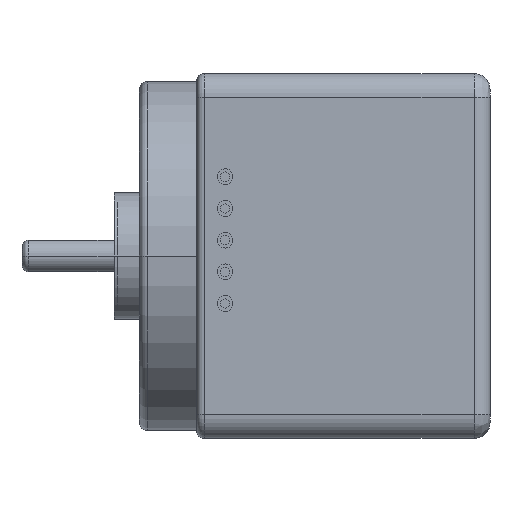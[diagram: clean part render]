
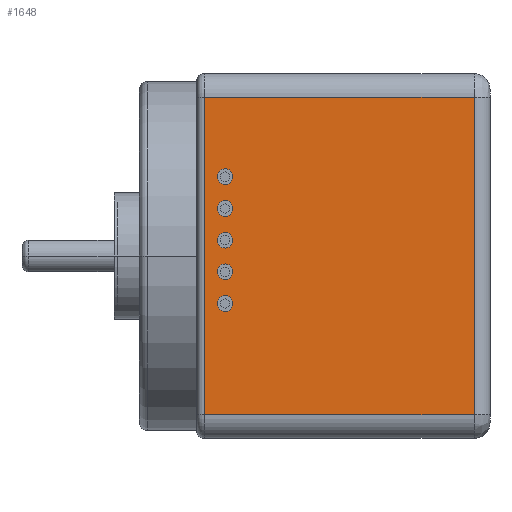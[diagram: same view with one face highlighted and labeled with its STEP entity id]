
A CAD part, front view. The second image highlights one B-rep face of the part: STEP entity #1648.
In plain terms, the highlighted planar face has unit normal (0, -1, 0).
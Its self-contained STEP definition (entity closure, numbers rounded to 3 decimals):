
#213=DIRECTION('',(-1.,0.,0.));
#214=VECTOR('',#213,17.);
#215=CARTESIAN_POINT('',(17.5,-14.,10.));
#216=LINE('',#215,#214);
#232=DIRECTION('',(0.,0.,1.));
#233=VECTOR('',#232,20.);
#234=CARTESIAN_POINT('',(17.5,-14.,-10.));
#235=LINE('',#234,#233);
#340=DIRECTION('',(0.,0.,-1.));
#341=VECTOR('',#340,20.);
#342=CARTESIAN_POINT('',(0.5,-14.,10.));
#343=LINE('',#342,#341);
#349=DIRECTION('',(-1.,0.,0.));
#350=VECTOR('',#349,17.);
#351=CARTESIAN_POINT('',(17.5,-14.,-10.));
#352=LINE('',#351,#350);
#353=CARTESIAN_POINT('',(1.8,-14.,5.));
#354=DIRECTION('',(0.,-1.,0.));
#355=DIRECTION('',(0.,0.,-1.));
#356=AXIS2_PLACEMENT_3D('',#353,#354,#355);
#358=CARTESIAN_POINT('',(1.8,-14.,5.));
#359=DIRECTION('',(0.,-1.,0.));
#360=DIRECTION('',(0.,0.,1.));
#361=AXIS2_PLACEMENT_3D('',#358,#359,#360);
#363=CARTESIAN_POINT('',(1.8,-14.,3.));
#364=DIRECTION('',(0.,-1.,0.));
#365=DIRECTION('',(0.,0.,-1.));
#366=AXIS2_PLACEMENT_3D('',#363,#364,#365);
#368=CARTESIAN_POINT('',(1.8,-14.,3.));
#369=DIRECTION('',(0.,-1.,0.));
#370=DIRECTION('',(0.,0.,1.));
#371=AXIS2_PLACEMENT_3D('',#368,#369,#370);
#373=CARTESIAN_POINT('',(1.8,-14.,1.));
#374=DIRECTION('',(0.,-1.,0.));
#375=DIRECTION('',(0.,0.,-1.));
#376=AXIS2_PLACEMENT_3D('',#373,#374,#375);
#378=CARTESIAN_POINT('',(1.8,-14.,1.));
#379=DIRECTION('',(0.,-1.,0.));
#380=DIRECTION('',(0.,0.,1.));
#381=AXIS2_PLACEMENT_3D('',#378,#379,#380);
#383=CARTESIAN_POINT('',(1.8,-14.,-1.));
#384=DIRECTION('',(0.,-1.,0.));
#385=DIRECTION('',(0.,0.,-1.));
#386=AXIS2_PLACEMENT_3D('',#383,#384,#385);
#388=CARTESIAN_POINT('',(1.8,-14.,-1.));
#389=DIRECTION('',(0.,-1.,0.));
#390=DIRECTION('',(0.,0.,1.));
#391=AXIS2_PLACEMENT_3D('',#388,#389,#390);
#393=CARTESIAN_POINT('',(1.8,-14.,-3.));
#394=DIRECTION('',(0.,-1.,0.));
#395=DIRECTION('',(0.,0.,-1.));
#396=AXIS2_PLACEMENT_3D('',#393,#394,#395);
#398=CARTESIAN_POINT('',(1.8,-14.,-3.));
#399=DIRECTION('',(0.,-1.,0.));
#400=DIRECTION('',(0.,0.,1.));
#401=AXIS2_PLACEMENT_3D('',#398,#399,#400);
#961=CARTESIAN_POINT('',(0.5,-14.,-10.));
#962=VERTEX_POINT('',#961);
#963=CARTESIAN_POINT('',(0.5,-14.,10.));
#964=VERTEX_POINT('',#963);
#965=CARTESIAN_POINT('',(17.5,-14.,10.));
#966=VERTEX_POINT('',#965);
#967=CARTESIAN_POINT('',(17.5,-14.,-10.));
#968=VERTEX_POINT('',#967);
#969=CARTESIAN_POINT('',(1.8,-14.,4.5));
#970=CARTESIAN_POINT('',(1.8,-14.,5.5));
#971=VERTEX_POINT('',#969);
#972=VERTEX_POINT('',#970);
#973=CARTESIAN_POINT('',(1.8,-14.,2.5));
#974=CARTESIAN_POINT('',(1.8,-14.,3.5));
#975=VERTEX_POINT('',#973);
#976=VERTEX_POINT('',#974);
#977=CARTESIAN_POINT('',(1.8,-14.,0.5));
#978=CARTESIAN_POINT('',(1.8,-14.,1.5));
#979=VERTEX_POINT('',#977);
#980=VERTEX_POINT('',#978);
#981=CARTESIAN_POINT('',(1.8,-14.,-1.5));
#982=CARTESIAN_POINT('',(1.8,-14.,-0.5));
#983=VERTEX_POINT('',#981);
#984=VERTEX_POINT('',#982);
#985=CARTESIAN_POINT('',(1.8,-14.,-3.5));
#986=CARTESIAN_POINT('',(1.8,-14.,-2.5));
#987=VERTEX_POINT('',#985);
#988=VERTEX_POINT('',#986);
#1607=CARTESIAN_POINT('',(9.,-14.,0.));
#1608=DIRECTION('',(0.,1.,0.));
#1609=DIRECTION('',(0.,0.,-1.));
#1610=AXIS2_PLACEMENT_3D('',#1607,#1608,#1609);
#1611=PLANE('',#1610);
#1612=ORIENTED_EDGE('',*,*,#1601,.F.);
#1613=ORIENTED_EDGE('',*,*,#1394,.F.);
#1614=ORIENTED_EDGE('',*,*,#1436,.F.);
#1615=ORIENTED_EDGE('',*,*,#1573,.T.);
#1616=EDGE_LOOP('',(#1612,#1613,#1614,#1615));
#1617=FACE_OUTER_BOUND('',#1616,.F.);
#1619=ORIENTED_EDGE('',*,*,#1618,.T.);
#1621=ORIENTED_EDGE('',*,*,#1620,.T.);
#1622=EDGE_LOOP('',(#1619,#1621));
#1623=FACE_BOUND('',#1622,.F.);
#1625=ORIENTED_EDGE('',*,*,#1624,.T.);
#1627=ORIENTED_EDGE('',*,*,#1626,.T.);
#1628=EDGE_LOOP('',(#1625,#1627));
#1629=FACE_BOUND('',#1628,.F.);
#1631=ORIENTED_EDGE('',*,*,#1630,.T.);
#1633=ORIENTED_EDGE('',*,*,#1632,.T.);
#1634=EDGE_LOOP('',(#1631,#1633));
#1635=FACE_BOUND('',#1634,.F.);
#1637=ORIENTED_EDGE('',*,*,#1636,.T.);
#1639=ORIENTED_EDGE('',*,*,#1638,.T.);
#1640=EDGE_LOOP('',(#1637,#1639));
#1641=FACE_BOUND('',#1640,.F.);
#1643=ORIENTED_EDGE('',*,*,#1642,.T.);
#1645=ORIENTED_EDGE('',*,*,#1644,.T.);
#1646=EDGE_LOOP('',(#1643,#1645));
#1647=FACE_BOUND('',#1646,.F.);
#1648=ADVANCED_FACE('',(#1617,#1623,#1629,#1635,#1641,#1647),#1611,.F.);
#357=CIRCLE('',#356,0.5);
#362=CIRCLE('',#361,0.5);
#367=CIRCLE('',#366,0.5);
#372=CIRCLE('',#371,0.5);
#377=CIRCLE('',#376,0.5);
#382=CIRCLE('',#381,0.5);
#387=CIRCLE('',#386,0.5);
#392=CIRCLE('',#391,0.5);
#397=CIRCLE('',#396,0.5);
#402=CIRCLE('',#401,0.5);
#1394=EDGE_CURVE('',#966,#964,#216,.T.);
#1436=EDGE_CURVE('',#968,#966,#235,.T.);
#1573=EDGE_CURVE('',#968,#962,#352,.T.);
#1601=EDGE_CURVE('',#964,#962,#343,.T.);
#1618=EDGE_CURVE('',#971,#972,#357,.T.);
#1620=EDGE_CURVE('',#972,#971,#362,.T.);
#1624=EDGE_CURVE('',#975,#976,#367,.T.);
#1626=EDGE_CURVE('',#976,#975,#372,.T.);
#1630=EDGE_CURVE('',#979,#980,#377,.T.);
#1632=EDGE_CURVE('',#980,#979,#382,.T.);
#1636=EDGE_CURVE('',#983,#984,#387,.T.);
#1638=EDGE_CURVE('',#984,#983,#392,.T.);
#1642=EDGE_CURVE('',#987,#988,#397,.T.);
#1644=EDGE_CURVE('',#988,#987,#402,.T.);
